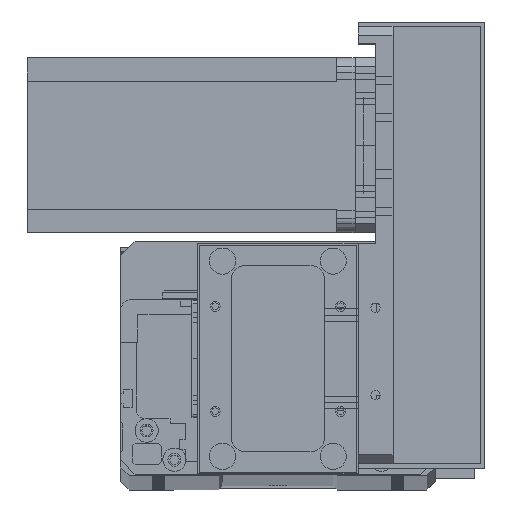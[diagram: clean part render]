
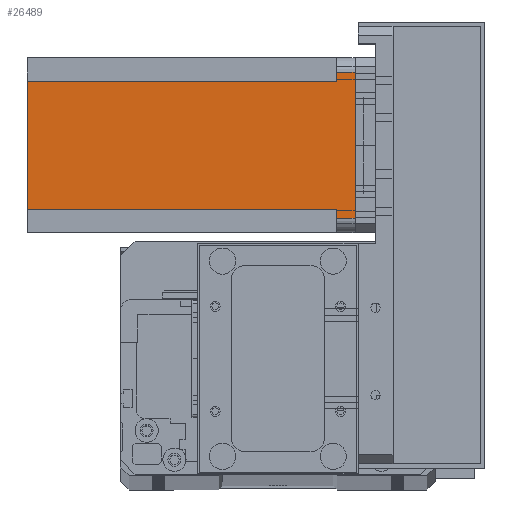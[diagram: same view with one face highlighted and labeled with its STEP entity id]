
A CAD part, top view. The second image highlights one B-rep face of the part: STEP entity #26489.
In plain terms, the highlighted planar face has unit normal (0, 0, 1) as drawn and (0, 1, 0) by its records, which use the part's own axes.
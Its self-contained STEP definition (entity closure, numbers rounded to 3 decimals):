
#479 = CARTESIAN_POINT ( 'NONE',  ( 55., 60., -6.5 ) ) ;
#1159 = VECTOR ( 'NONE', #25177, 1000. ) ;
#1412 = DIRECTION ( 'NONE',  ( 0., 0., 1. ) ) ;
#1677 = CARTESIAN_POINT ( 'NONE',  ( 52., 60., -6.5 ) ) ;
#1936 = EDGE_CURVE ( 'NONE', #34294, #2982, #2024, .T. ) ;
#2024 = LINE ( 'NONE', #22886, #1159 ) ;
#2188 = EDGE_CURVE ( 'NONE', #2400, #2982, #20173, .T. ) ;
#2320 = ORIENTED_EDGE ( 'NONE', *, *, #3468, .T. ) ;
#2400 = VERTEX_POINT ( 'NONE', #11963 ) ;
#2982 = VERTEX_POINT ( 'NONE', #479 ) ;
#3457 = EDGE_CURVE ( 'NONE', #27637, #2400, #4498, .T. ) ;
#3468 = EDGE_CURVE ( 'NONE', #27637, #33294, #24309, .T. ) ;
#3643 = VECTOR ( 'NONE', #6328, 1000. ) ;
#3671 = EDGE_CURVE ( 'NONE', #32976, #33294, #4900, .T. ) ;
#3726 = ORIENTED_EDGE ( 'NONE', *, *, #4190, .T. ) ;
#4190 = EDGE_CURVE ( 'NONE', #32976, #29958, #26390, .T. ) ;
#4498 = LINE ( 'NONE', #12999, #3643 ) ;
#4554 = EDGE_CURVE ( 'NONE', #29958, #21178, #22528, .T. ) ;
#4570 = PLANE ( 'NONE',  #21932 ) ;
#4900 = LINE ( 'NONE', #16684, #26425 ) ;
#5237 = DIRECTION ( 'NONE',  ( 0., 0., -1. ) ) ;
#5607 = CARTESIAN_POINT ( 'NONE',  ( 5., 60., -112.5 ) ) ;
#6024 = ORIENTED_EDGE ( 'NONE', *, *, #2188, .F. ) ;
#6328 = DIRECTION ( 'NONE',  ( 0., 0., 1. ) ) ;
#7185 = ORIENTED_EDGE ( 'NONE', *, *, #1936, .T. ) ;
#7512 = VECTOR ( 'NONE', #12937, 1000. ) ;
#7924 = CARTESIAN_POINT ( 'NONE',  ( 8., 60., -112.5 ) ) ;
#8254 = VECTOR ( 'NONE', #1412, 1000. ) ;
#10277 = CARTESIAN_POINT ( 'NONE',  ( 0., 60., 0. ) ) ;
#11278 = DIRECTION ( 'NONE',  ( -1., 0., 0. ) ) ;
#11302 = ORIENTED_EDGE ( 'NONE', *, *, #29606, .F. ) ;
#11535 = ORIENTED_EDGE ( 'NONE', *, *, #4554, .T. ) ;
#11586 = ORIENTED_EDGE ( 'NONE', *, *, #3457, .F. ) ;
#11963 = CARTESIAN_POINT ( 'NONE',  ( 52., 60., -6.5 ) ) ;
#12442 = CARTESIAN_POINT ( 'NONE',  ( 0., 60., -112.5 ) ) ;
#12937 = DIRECTION ( 'NONE',  ( -1., 0., 0. ) ) ;
#12999 = CARTESIAN_POINT ( 'NONE',  ( 52., 60., -112.5 ) ) ;
#13822 = DIRECTION ( 'NONE',  ( 1., 0., 0. ) ) ;
#15373 = DIRECTION ( 'NONE',  ( 0., 1., 0. ) ) ;
#15631 = FACE_OUTER_BOUND ( 'NONE', #17008, .T. ) ;
#16684 = CARTESIAN_POINT ( 'NONE',  ( 8., 60., -112.5 ) ) ;
#17008 = EDGE_LOOP ( 'NONE', ( #11302, #7185, #6024, #11586, #2320, #28982, #3726, #11535 ) ) ;
#17120 = VECTOR ( 'NONE', #11278, 1000. ) ;
#20049 = VECTOR ( 'NONE', #34908, 1000. ) ;
#20173 = LINE ( 'NONE', #1677, #27382 ) ;
#20586 = CARTESIAN_POINT ( 'NONE',  ( 0., 60., -112.5 ) ) ;
#21178 = VERTEX_POINT ( 'NONE', #28833 ) ;
#21932 = AXIS2_PLACEMENT_3D ( 'NONE', #20586, #15373, #34315 ) ;
#22513 = CARTESIAN_POINT ( 'NONE',  ( 52., 60., -112.5 ) ) ;
#22528 = LINE ( 'NONE', #5607, #8254 ) ;
#22653 = CARTESIAN_POINT ( 'NONE',  ( 55., 60., 0. ) ) ;
#22886 = CARTESIAN_POINT ( 'NONE',  ( 55., 60., -112.5 ) ) ;
#24309 = LINE ( 'NONE', #12442, #17120 ) ;
#25177 = DIRECTION ( 'NONE',  ( 0., 0., -1. ) ) ;
#25194 = CARTESIAN_POINT ( 'NONE',  ( 5., 60., -6.5 ) ) ;
#26390 = LINE ( 'NONE', #34671, #20049 ) ;
#26425 = VECTOR ( 'NONE', #5237, 1000. ) ;
#26489 = ADVANCED_FACE ( 'NONE', ( #15631 ), #4570, .T. ) ;
#27382 = VECTOR ( 'NONE', #13822, 1000. ) ;
#27637 = VERTEX_POINT ( 'NONE', #22513 ) ;
#28833 = CARTESIAN_POINT ( 'NONE',  ( 5., 60., 0. ) ) ;
#28982 = ORIENTED_EDGE ( 'NONE', *, *, #3671, .F. ) ;
#29606 = EDGE_CURVE ( 'NONE', #34294, #21178, #29851, .T. ) ;
#29851 = LINE ( 'NONE', #10277, #7512 ) ;
#29958 = VERTEX_POINT ( 'NONE', #25194 ) ;
#30540 = CARTESIAN_POINT ( 'NONE',  ( 8., 60., -6.5 ) ) ;
#32976 = VERTEX_POINT ( 'NONE', #30540 ) ;
#33294 = VERTEX_POINT ( 'NONE', #7924 ) ;
#34294 = VERTEX_POINT ( 'NONE', #22653 ) ;
#34315 = DIRECTION ( 'NONE',  ( 0., 0., 1. ) ) ;
#34671 = CARTESIAN_POINT ( 'NONE',  ( 8., 60., -6.5 ) ) ;
#34908 = DIRECTION ( 'NONE',  ( -1., 0., 0. ) ) ;
